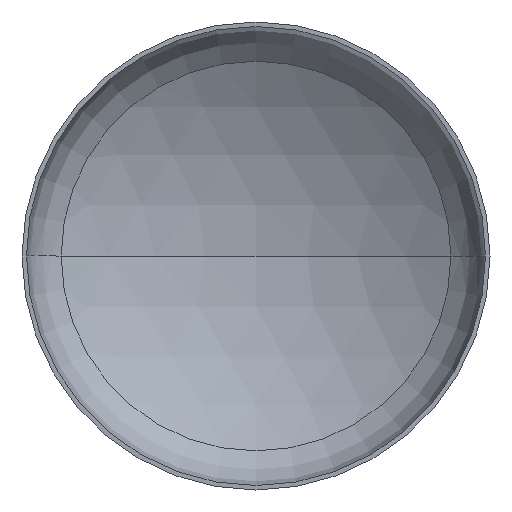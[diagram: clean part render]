
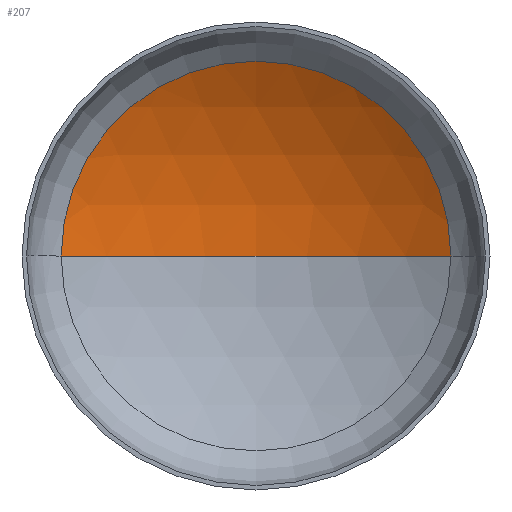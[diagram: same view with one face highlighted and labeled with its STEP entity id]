
A CAD part, front view. The second image highlights one B-rep face of the part: STEP entity #207.
In plain terms, the highlighted spherical face has radius 3600 mm.
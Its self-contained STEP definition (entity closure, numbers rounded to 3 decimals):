
#7 = AXIS2_PLACEMENT_3D ( 'NONE', #262, #106, #286 ) ;
#32 = ORIENTED_EDGE ( 'NONE', *, *, #105, .T. ) ;
#47 = AXIS2_PLACEMENT_3D ( 'NONE', #205, #196, #252 ) ;
#55 = AXIS2_PLACEMENT_3D ( 'NONE', #335, #136, #282 ) ;
#57 = AXIS2_PLACEMENT_3D ( 'NONE', #183, #185, #332 ) ;
#60 = VERTEX_POINT ( 'NONE', #275 ) ;
#73 = ORIENTED_EDGE ( 'NONE', *, *, #103, .T. ) ;
#103 = EDGE_CURVE ( 'NONE', #140, #60, #290, .T. ) ;
#105 = EDGE_CURVE ( 'NONE', #119, #140, #227, .T. ) ;
#106 = DIRECTION ( 'NONE',  ( 0., 0., 1. ) ) ;
#119 = VERTEX_POINT ( 'NONE', #330 ) ;
#126 = ORIENTED_EDGE ( 'NONE', *, *, #337, .F. ) ;
#136 = DIRECTION ( 'NONE',  ( 0., 0., -1. ) ) ;
#140 = VERTEX_POINT ( 'NONE', #159 ) ;
#159 = CARTESIAN_POINT ( 'NONE',  ( 1873.735, 723.442, 0. ) ) ;
#183 = CARTESIAN_POINT ( 'NONE',  ( 0., 723.442, 0. ) ) ;
#185 = DIRECTION ( 'NONE',  ( 0., -1., 0. ) ) ;
#195 = CIRCLE ( 'NONE', #7, 3600. ) ;
#196 = DIRECTION ( 'NONE',  ( 0., 0., -1. ) ) ;
#205 = CARTESIAN_POINT ( 'NONE',  ( 0., -2350.5, 0. ) ) ;
#207 = ADVANCED_FACE ( 'NONE', ( #285 ), #341, .F. ) ;
#227 = CIRCLE ( 'NONE', #55, 3600. ) ;
#252 = DIRECTION ( 'NONE',  ( -1., 0., 0. ) ) ;
#262 = CARTESIAN_POINT ( 'NONE',  ( 0., -2350.5, 0. ) ) ;
#275 = CARTESIAN_POINT ( 'NONE',  ( -1873.735, 723.442, 0. ) ) ;
#282 = DIRECTION ( 'NONE',  ( -1., 0., 0. ) ) ;
#285 = FACE_OUTER_BOUND ( 'NONE', #401, .T. ) ;
#286 = DIRECTION ( 'NONE',  ( 1., 0., 0. ) ) ;
#290 = CIRCLE ( 'NONE', #57, 1873.735 ) ;
#330 = CARTESIAN_POINT ( 'NONE',  ( 0., 1249.5, 0. ) ) ;
#332 = DIRECTION ( 'NONE',  ( 1., 0., 0. ) ) ;
#335 = CARTESIAN_POINT ( 'NONE',  ( 0., -2350.5, 0. ) ) ;
#337 = EDGE_CURVE ( 'NONE', #119, #60, #195, .T. ) ;
#341 = SPHERICAL_SURFACE ( 'NONE', #47, 3600. ) ;
#401 = EDGE_LOOP ( 'NONE', ( #126, #32, #73 ) ) ;
